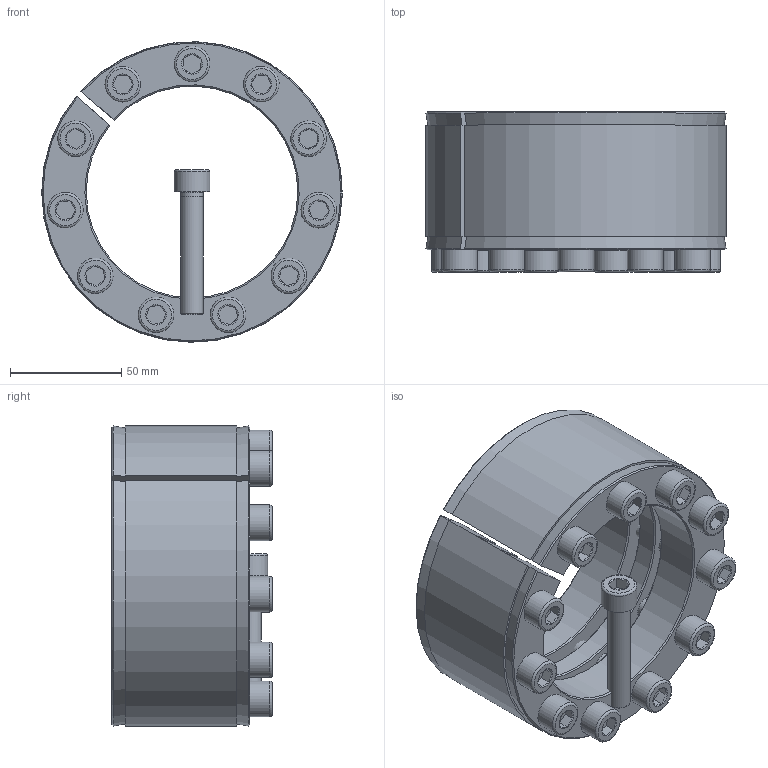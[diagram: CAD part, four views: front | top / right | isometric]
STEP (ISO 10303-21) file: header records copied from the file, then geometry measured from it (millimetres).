
FILE_DESCRIPTION( ( 'Unknown' ), '1' );
FILE_NAME( 'C:/Users/Frank/Eigene Daten/CAD/Solid Edge/KBK Karpstein/KBS Layout Baureihen/KBS 18/KBS - 95 x 135.stp', 'Unknown', ( 'Unknown' ), ( 'Unknown' ), 'XStep 1.0', 'Unknown', ' ' );
FILE_SCHEMA( ( 'automotive_design' ) );
Length unit declared in the file: millimetre
Products named in the file (3): Assem1; ISO EN DIN 4762 M10x55; KBS 18 - 95 x 135
Bounding box: 134.99 x 72 x 134.96 mm (x, y, z)
Volume: 746804.8 mm3; surface area: 224117.8 mm2
Topology: 14 solids, 14 shells, 440 faces, 996 edges, 588 vertices
Faces by surface type: plane 186, cylinder 122, cone 108, torus 24
Full cylindrical faces by diameter (mm): 8.376 x22, 9 x12, 10 x24, 11 x44, 16 x12
Entity records: 3864 total; most frequent: CARTESIAN_POINT 756, DIRECTION 554, ORIENTED_EDGE 456, AXIS2_PLACEMENT_3D 259, EDGE_CURVE 228, EDGE_LOOP 183, VERTEX_POINT 159, CIRCLE 151
